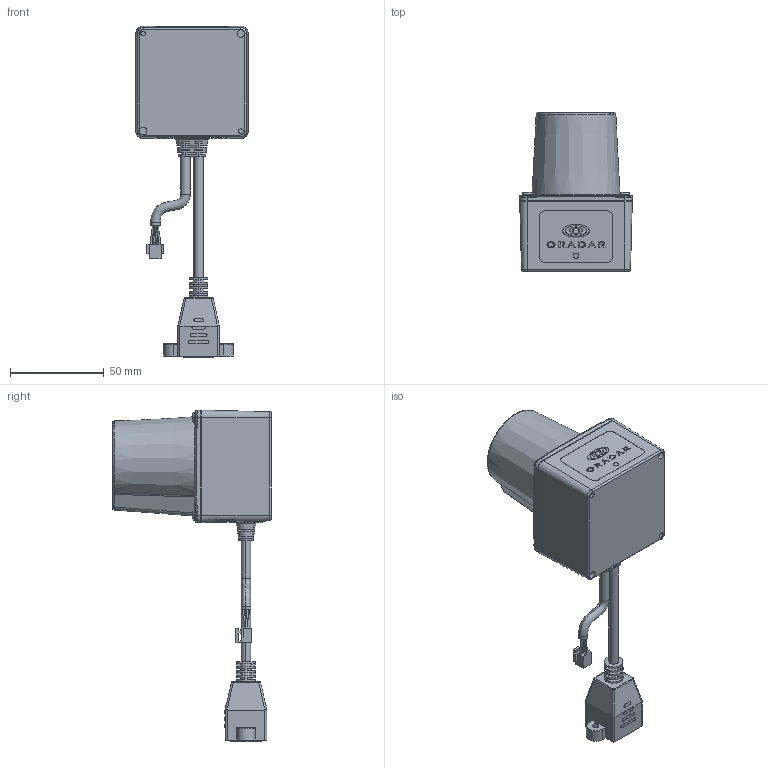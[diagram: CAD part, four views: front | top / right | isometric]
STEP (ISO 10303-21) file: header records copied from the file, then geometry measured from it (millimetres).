
FILE_DESCRIPTION((''),'2;1');
FILE_NAME('310200645-P2228-200002_4','2024-04-17T14:56:58',('leixiansheng'),(''),'CREO PARAMETRIC BY PTC INC, 2020053','CREO PARAMETRIC BY PTC INC, 2020053','');
FILE_SCHEMA(('CONFIG_CONTROL_DESIGN','GEOMETRIC_VALIDATION_PROPERTIES_MIM'));
Length unit declared in the file: millimetre
Products named in the file (1): 310200645-P2228-200002_4
Bounding box: 59.98 x 84.5 x 176.79 mm (x, y, z)
Volume: 164890.3 mm3; surface area: 43968.8 mm2
Topology: 1 solids, 18 shells, 1240 faces, 3287 edges, 2140 vertices
Faces by surface type: plane 578, cylinder 330, cone 121, bspline 86, torus 62, extrusion 53, revolution 10
Entity records: 52007 total; most frequent: CARTESIAN_POINT 21026, ORIENTED_EDGE 6526, DIRECTION 5769, EDGE_CURVE 3269, VERTEX_POINT 2140, AXIS2_PLACEMENT_3D 2033, VECTOR 1693, LINE 1640
